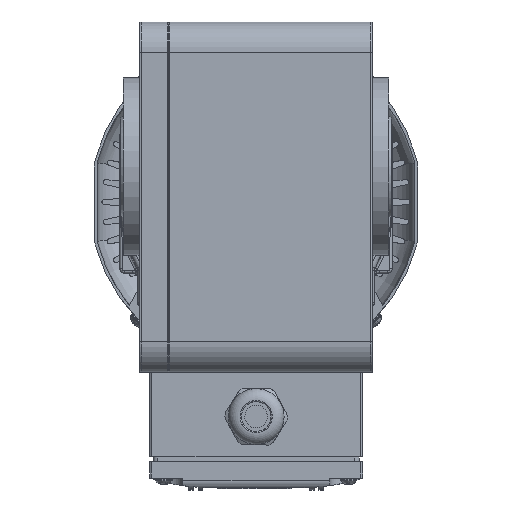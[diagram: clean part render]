
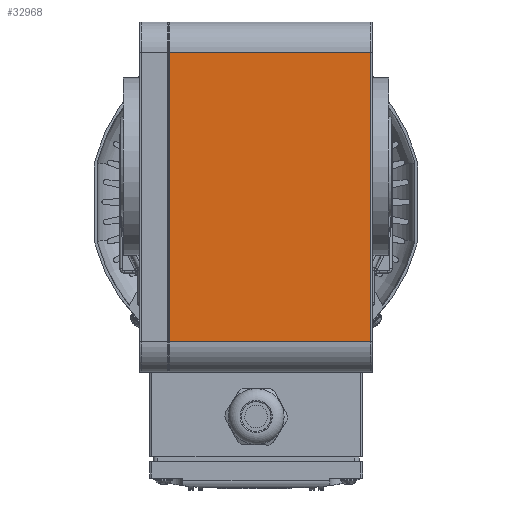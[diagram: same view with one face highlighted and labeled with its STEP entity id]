
A CAD part, front view. The second image highlights one B-rep face of the part: STEP entity #32968.
In plain terms, the highlighted planar face has unit normal (0, -1, 0).
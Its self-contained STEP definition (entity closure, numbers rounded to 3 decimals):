
#1821=FACE_OUTER_BOUND('',#3725,.T.);
#3725=EDGE_LOOP('',(#21089,#21090,#21091,#21092));
#7811=LINE('',#49525,#10227);
#7825=LINE('',#49579,#10241);
#7837=LINE('',#49627,#10253);
#7838=LINE('',#49629,#10254);
#10227=VECTOR('',#39447,122.);
#10241=VECTOR('',#39515,122.);
#10253=VECTOR('',#39571,85.);
#10254=VECTOR('',#39574,85.);
#12769=VERTEX_POINT('',#49280);
#12815=VERTEX_POINT('',#49517);
#12817=VERTEX_POINT('',#49523);
#12830=VERTEX_POINT('',#49575);
#16000=EDGE_CURVE('',#12817,#12815,#7811,.T.);
#16027=EDGE_CURVE('',#12769,#12830,#7825,.T.);
#16052=EDGE_CURVE('',#12769,#12815,#7837,.T.);
#16053=EDGE_CURVE('',#12830,#12817,#7838,.T.);
#21089=ORIENTED_EDGE('',*,*,#16027,.F.);
#21090=ORIENTED_EDGE('',*,*,#16052,.T.);
#21091=ORIENTED_EDGE('',*,*,#16000,.F.);
#21092=ORIENTED_EDGE('',*,*,#16053,.F.);
#30164=PLANE('',#35182);
#32968=ADVANCED_FACE('',(#1821),#30164,.T.);
#35182=AXIS2_PLACEMENT_3D('',#49628,#39572,#39573);
#39447=DIRECTION('',(0.,0.,1.));
#39515=DIRECTION('',(0.,0.,-1.));
#39571=DIRECTION('',(-1.,0.,0.));
#39572=DIRECTION('center_axis',(0.,-1.,0.));
#39573=DIRECTION('ref_axis',(1.,0.,0.));
#39574=DIRECTION('',(-1.,0.,0.));
#49280=CARTESIAN_POINT('',(44.746,-15.5,-3.));
#49517=CARTESIAN_POINT('',(-40.254,-15.5,-3.));
#49523=CARTESIAN_POINT('',(-40.254,-15.5,-125.));
#49525=CARTESIAN_POINT('',(-40.254,-15.5,-125.));
#49575=CARTESIAN_POINT('',(44.746,-15.5,-125.));
#49579=CARTESIAN_POINT('',(44.746,-15.5,-3.));
#49627=CARTESIAN_POINT('',(44.746,-15.5,-3.));
#49628=CARTESIAN_POINT('Origin',(-3.754,-15.5,-3.));
#49629=CARTESIAN_POINT('',(44.746,-15.5,-125.));
